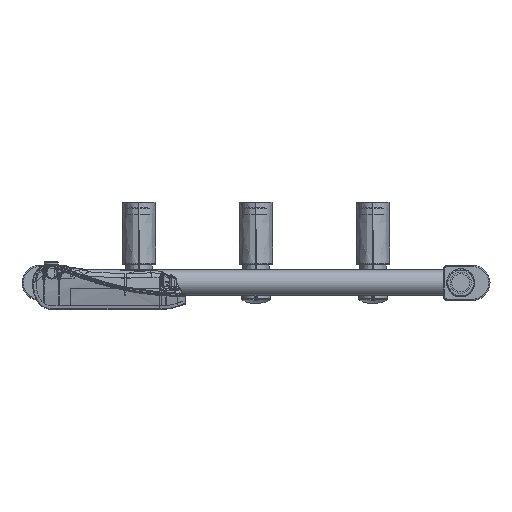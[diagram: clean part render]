
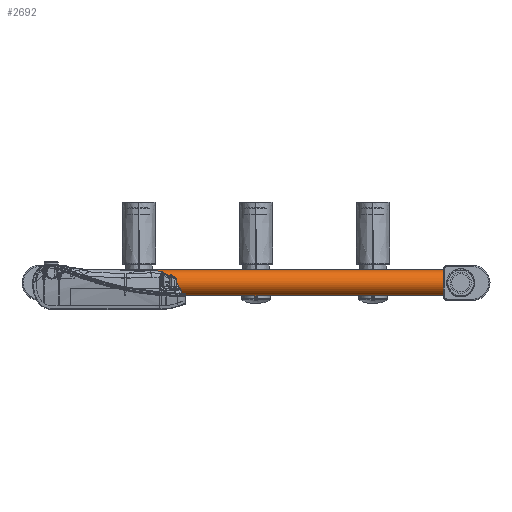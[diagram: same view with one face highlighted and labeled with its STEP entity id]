
A CAD part, front view. The second image highlights one B-rep face of the part: STEP entity #2692.
In plain terms, the highlighted cylindrical face has radius 11 mm (diameter 22 mm), a partial arc.
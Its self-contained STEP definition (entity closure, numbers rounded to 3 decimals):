
#320=CARTESIAN_POINT('',(160.,-594.,0.));
#321=DIRECTION('',(1.,0.,0.));
#322=DIRECTION('',(0.,0.,1.));
#323=AXIS2_PLACEMENT_3D('',#320,#321,#322);
#825=DIRECTION('',(1.,0.,0.));
#826=VECTOR('',#825,320.);
#827=CARTESIAN_POINT('',(-160.,-594.,-11.));
#828=LINE('',#827,#826);
#832=DIRECTION('',(1.,0.,0.));
#833=VECTOR('',#832,320.);
#834=CARTESIAN_POINT('',(-160.,-594.,11.));
#835=LINE('',#834,#833);
#875=CARTESIAN_POINT('',(-160.,-594.,0.));
#876=DIRECTION('',(1.,0.,0.));
#877=DIRECTION('',(0.,0.,1.));
#878=AXIS2_PLACEMENT_3D('',#875,#876,#877);
#1961=CARTESIAN_POINT('',(-160.,-594.,-11.));
#1962=CARTESIAN_POINT('',(160.,-594.,-11.));
#1963=VERTEX_POINT('',#1961);
#1964=VERTEX_POINT('',#1962);
#1965=CARTESIAN_POINT('',(-160.,-594.,11.));
#1966=CARTESIAN_POINT('',(160.,-594.,11.));
#1967=VERTEX_POINT('',#1965);
#1968=VERTEX_POINT('',#1966);
#2680=CARTESIAN_POINT('',(-240.,-594.,0.));
#2681=DIRECTION('',(1.,0.,0.));
#2682=DIRECTION('',(0.,0.,-1.));
#2683=AXIS2_PLACEMENT_3D('',#2680,#2681,#2682);
#2684=CYLINDRICAL_SURFACE('',#2683,11.);
#2685=ORIENTED_EDGE('',*,*,#2670,.F.);
#2687=ORIENTED_EDGE('',*,*,#2686,.F.);
#2688=ORIENTED_EDGE('',*,*,#2673,.T.);
#2689=ORIENTED_EDGE('',*,*,#2353,.T.);
#2690=EDGE_LOOP('',(#2685,#2687,#2688,#2689));
#2691=FACE_OUTER_BOUND('',#2690,.F.);
#324=CIRCLE('',#323,11.);
#879=CIRCLE('',#878,11.);
#2353=EDGE_CURVE('',#1968,#1964,#324,.T.);
#2670=EDGE_CURVE('',#1963,#1964,#828,.T.);
#2673=EDGE_CURVE('',#1967,#1968,#835,.T.);
#2686=EDGE_CURVE('',#1967,#1963,#879,.T.);
#2692=ADVANCED_FACE('',(#2691),#2684,.T.);
